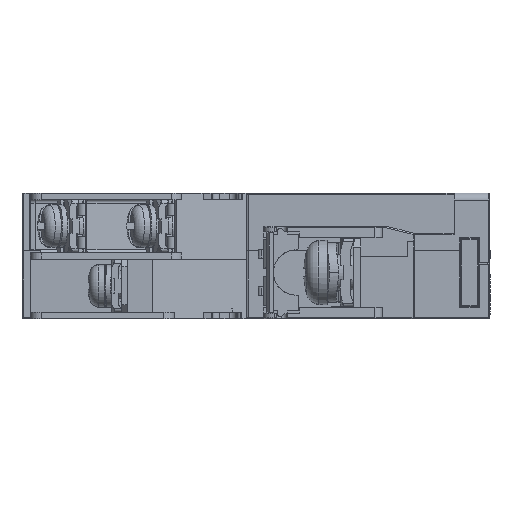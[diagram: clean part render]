
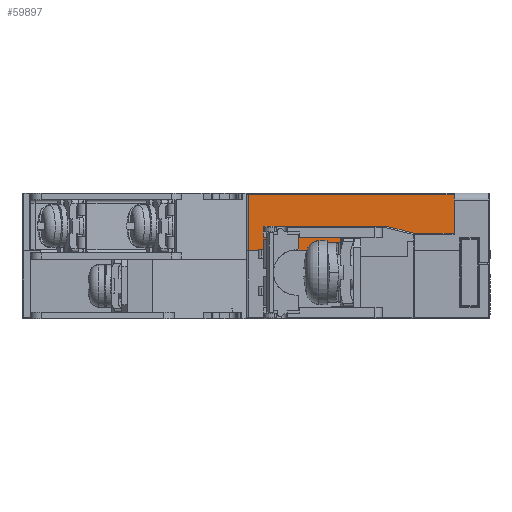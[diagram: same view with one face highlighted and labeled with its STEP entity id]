
A CAD part, left-side view. The second image highlights one B-rep face of the part: STEP entity #59897.
In plain terms, the highlighted planar face has unit normal (-1, 0, 0).
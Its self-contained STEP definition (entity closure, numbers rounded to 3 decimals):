
#152 = VERTEX_POINT ( 'NONE', #69453 ) ;
#987 = EDGE_CURVE ( 'NONE', #67542, #13773, #29782, .T. ) ;
#1465 = VECTOR ( 'NONE', #35686, 1000. ) ;
#4687 = ORIENTED_EDGE ( 'NONE', *, *, #22028, .F. ) ;
#4747 = VERTEX_POINT ( 'NONE', #67938 ) ;
#5482 = DIRECTION ( 'NONE',  ( 0., 1., 0. ) ) ;
#5932 = VERTEX_POINT ( 'NONE', #65286 ) ;
#6423 = DIRECTION ( 'NONE',  ( 0., 0.97, 0.243 ) ) ;
#6819 = EDGE_CURVE ( 'NONE', #51200, #13773, #18505, .T. ) ;
#8445 = VERTEX_POINT ( 'NONE', #31986 ) ;
#8464 = DIRECTION ( 'NONE',  ( -1., 0., 0. ) ) ;
#8512 = DIRECTION ( 'NONE',  ( 0., 0., 1. ) ) ;
#9091 = CARTESIAN_POINT ( 'NONE',  ( -22.5, -47., 2.4 ) ) ;
#9928 = CARTESIAN_POINT ( 'NONE',  ( -22.5, -26., 3.2 ) ) ;
#10209 = ORIENTED_EDGE ( 'NONE', *, *, #81072, .T. ) ;
#10993 = EDGE_CURVE ( 'NONE', #77690, #152, #78779, .T. ) ;
#12812 = EDGE_CURVE ( 'NONE', #13857, #24925, #13831, .T. ) ;
#13773 = VERTEX_POINT ( 'NONE', #77817 ) ;
#13831 = LINE ( 'NONE', #40789, #29010 ) ;
#13857 = VERTEX_POINT ( 'NONE', #14562 ) ;
#14204 = CARTESIAN_POINT ( 'NONE',  ( -22.5, -26., 6.4 ) ) ;
#14562 = CARTESIAN_POINT ( 'NONE',  ( -22.5, -23.9, 0. ) ) ;
#15277 = AXIS2_PLACEMENT_3D ( 'NONE', #79562, #8464, #34148 ) ;
#15576 = DIRECTION ( 'NONE',  ( 0., 1., 0. ) ) ;
#18505 = LINE ( 'NONE', #68446, #1465 ) ;
#19196 = CARTESIAN_POINT ( 'NONE',  ( -22.5, -38.3, 0.3 ) ) ;
#19646 = CARTESIAN_POINT ( 'NONE',  ( -22.5, -43., 3.4 ) ) ;
#20005 = EDGE_CURVE ( 'NONE', #59874, #51200, #46532, .T. ) ;
#21028 = DIRECTION ( 'NONE',  ( 0., -1., 0. ) ) ;
#21634 = EDGE_CURVE ( 'NONE', #5932, #47501, #65584, .T. ) ;
#22028 = EDGE_CURVE ( 'NONE', #8445, #57090, #80628, .T. ) ;
#24848 = LINE ( 'NONE', #38080, #51099 ) ;
#24925 = VERTEX_POINT ( 'NONE', #56679 ) ;
#25083 = DIRECTION ( 'NONE',  ( 0., 0., -1. ) ) ;
#26058 = CARTESIAN_POINT ( 'NONE',  ( -22.5, -46.925, 2.4 ) ) ;
#26070 = CARTESIAN_POINT ( 'NONE',  ( -22.5, -23.9, 6.4 ) ) ;
#26227 = AXIS2_PLACEMENT_3D ( 'NONE', #54256, #47446, #8512 ) ;
#27351 = VECTOR ( 'NONE', #78055, 1000. ) ;
#27377 = ORIENTED_EDGE ( 'NONE', *, *, #39198, .T. ) ;
#28001 = ORIENTED_EDGE ( 'NONE', *, *, #68399, .T. ) ;
#28665 = DIRECTION ( 'NONE',  ( 0., 0., 1. ) ) ;
#29010 = VECTOR ( 'NONE', #21028, 1000. ) ;
#29782 = CIRCLE ( 'NONE', #26227, 0.2 ) ;
#30438 = CARTESIAN_POINT ( 'NONE',  ( -22.5, -26., 1.8 ) ) ;
#30857 = DIRECTION ( 'NONE',  ( 1., 0., 0. ) ) ;
#31986 = CARTESIAN_POINT ( 'NONE',  ( -22.5, -52.5, 2.4 ) ) ;
#34134 = ORIENTED_EDGE ( 'NONE', *, *, #6819, .F. ) ;
#34148 = DIRECTION ( 'NONE',  ( 0., 0., 1. ) ) ;
#34341 = VECTOR ( 'NONE', #58006, 1000. ) ;
#34418 = VECTOR ( 'NONE', #6423, 1000. ) ;
#35084 = LINE ( 'NONE', #61447, #43156 ) ;
#35455 = LINE ( 'NONE', #71584, #27351 ) ;
#35686 = DIRECTION ( 'NONE',  ( 0., 1., 0. ) ) ;
#35987 = DIRECTION ( 'NONE',  ( 0., 1., 0. ) ) ;
#36922 = DIRECTION ( 'NONE',  ( 0., 1., 0. ) ) ;
#37908 = ORIENTED_EDGE ( 'NONE', *, *, #12812, .T. ) ;
#38080 = CARTESIAN_POINT ( 'NONE',  ( -22.5, -52.5, 22.866 ) ) ;
#38326 = VERTEX_POINT ( 'NONE', #44011 ) ;
#38644 = CARTESIAN_POINT ( 'NONE',  ( -22.5, -39.5, 1.8 ) ) ;
#38646 = LINE ( 'NONE', #55214, #77822 ) ;
#39198 = EDGE_CURVE ( 'NONE', #4747, #38326, #35084, .T. ) ;
#39956 = EDGE_CURVE ( 'NONE', #4747, #8445, #24848, .T. ) ;
#40789 = CARTESIAN_POINT ( 'NONE',  ( -22.5, 7.5, 0. ) ) ;
#42563 = ORIENTED_EDGE ( 'NONE', *, *, #73843, .T. ) ;
#42831 = ORIENTED_EDGE ( 'NONE', *, *, #10993, .T. ) ;
#43156 = VECTOR ( 'NONE', #35987, 1000. ) ;
#44011 = CARTESIAN_POINT ( 'NONE',  ( -22.5, -23.9, 7.8 ) ) ;
#44899 = CIRCLE ( 'NONE', #73393, 0.2 ) ;
#45411 = ORIENTED_EDGE ( 'NONE', *, *, #987, .T. ) ;
#46532 = LINE ( 'NONE', #19646, #34418 ) ;
#46828 = PLANE ( 'NONE',  #15277 ) ;
#47127 = CARTESIAN_POINT ( 'NONE',  ( -22.5, -46.849, 2.438 ) ) ;
#47446 = DIRECTION ( 'NONE',  ( 1., 0., 0. ) ) ;
#47501 = VERTEX_POINT ( 'NONE', #19196 ) ;
#49829 = ORIENTED_EDGE ( 'NONE', *, *, #69451, .T. ) ;
#51099 = VECTOR ( 'NONE', #25083, 1000. ) ;
#51200 = VERTEX_POINT ( 'NONE', #54307 ) ;
#54256 = CARTESIAN_POINT ( 'NONE',  ( -22.5, -26.2, 3.2 ) ) ;
#54307 = CARTESIAN_POINT ( 'NONE',  ( -22.5, -43., 3.4 ) ) ;
#54724 = ORIENTED_EDGE ( 'NONE', *, *, #72058, .T. ) ;
#55214 = CARTESIAN_POINT ( 'NONE',  ( -22.5, -39.5, 0.55 ) ) ;
#56404 = VECTOR ( 'NONE', #65941, 1000. ) ;
#56679 = CARTESIAN_POINT ( 'NONE',  ( -22.5, -38.3, 0. ) ) ;
#57090 = VERTEX_POINT ( 'NONE', #26058 ) ;
#57418 = CARTESIAN_POINT ( 'NONE',  ( -22.5, -38.3, 0.3 ) ) ;
#58006 = DIRECTION ( 'NONE',  ( 0., 0., -1. ) ) ;
#59874 = VERTEX_POINT ( 'NONE', #47127 ) ;
#59897 = ADVANCED_FACE ( 'NONE', ( #64953 ), #46828, .T. ) ;
#61073 = ORIENTED_EDGE ( 'NONE', *, *, #21634, .F. ) ;
#61447 = CARTESIAN_POINT ( 'NONE',  ( -22.5, -23.9, 7.8 ) ) ;
#64953 = FACE_OUTER_BOUND ( 'NONE', #75344, .T. ) ;
#65286 = CARTESIAN_POINT ( 'NONE',  ( -22.5, -39.5, 0.3 ) ) ;
#65412 = ORIENTED_EDGE ( 'NONE', *, *, #20005, .F. ) ;
#65584 = LINE ( 'NONE', #57418, #72566 ) ;
#65941 = DIRECTION ( 'NONE',  ( 0., 0., 1. ) ) ;
#67542 = VERTEX_POINT ( 'NONE', #9928 ) ;
#67938 = CARTESIAN_POINT ( 'NONE',  ( -22.5, -52.5, 7.8 ) ) ;
#68399 = EDGE_CURVE ( 'NONE', #24925, #47501, #35455, .T. ) ;
#68446 = CARTESIAN_POINT ( 'NONE',  ( -22.5, -26., 3.4 ) ) ;
#69451 = EDGE_CURVE ( 'NONE', #5932, #77690, #38646, .T. ) ;
#69453 = CARTESIAN_POINT ( 'NONE',  ( -22.5, -26., 1.8 ) ) ;
#69534 = CARTESIAN_POINT ( 'NONE',  ( -22.5, -46.8, 2.244 ) ) ;
#71584 = CARTESIAN_POINT ( 'NONE',  ( -22.5, -38.3, -65.011 ) ) ;
#72058 = EDGE_CURVE ( 'NONE', #38326, #13857, #75713, .T. ) ;
#72566 = VECTOR ( 'NONE', #5482, 1000. ) ;
#73393 = AXIS2_PLACEMENT_3D ( 'NONE', #69534, #30857, #76016 ) ;
#73843 = EDGE_CURVE ( 'NONE', #152, #67542, #82591, .T. ) ;
#74755 = VECTOR ( 'NONE', #36922, 1000. ) ;
#75344 = EDGE_LOOP ( 'NONE', ( #81719, #27377, #54724, #37908, #28001, #61073, #49829, #42831, #42563, #45411, #34134, #65412, #10209, #4687 ) ) ;
#75713 = LINE ( 'NONE', #26070, #34341 ) ;
#76016 = DIRECTION ( 'NONE',  ( 0., 0., 1. ) ) ;
#77690 = VERTEX_POINT ( 'NONE', #38644 ) ;
#77817 = CARTESIAN_POINT ( 'NONE',  ( -22.5, -26.2, 3.4 ) ) ;
#77822 = VECTOR ( 'NONE', #28665, 1000. ) ;
#78055 = DIRECTION ( 'NONE',  ( 0., 0., 1. ) ) ;
#78779 = LINE ( 'NONE', #30438, #74755 ) ;
#79562 = CARTESIAN_POINT ( 'NONE',  ( -22.5, -26., 6.4 ) ) ;
#80628 = LINE ( 'NONE', #9091, #81601 ) ;
#81072 = EDGE_CURVE ( 'NONE', #59874, #57090, #44899, .T. ) ;
#81601 = VECTOR ( 'NONE', #15576, 1000. ) ;
#81719 = ORIENTED_EDGE ( 'NONE', *, *, #39956, .F. ) ;
#82591 = LINE ( 'NONE', #14204, #56404 ) ;
